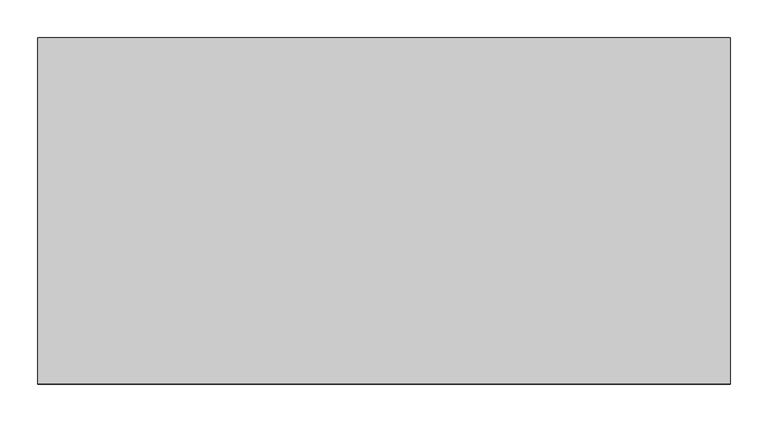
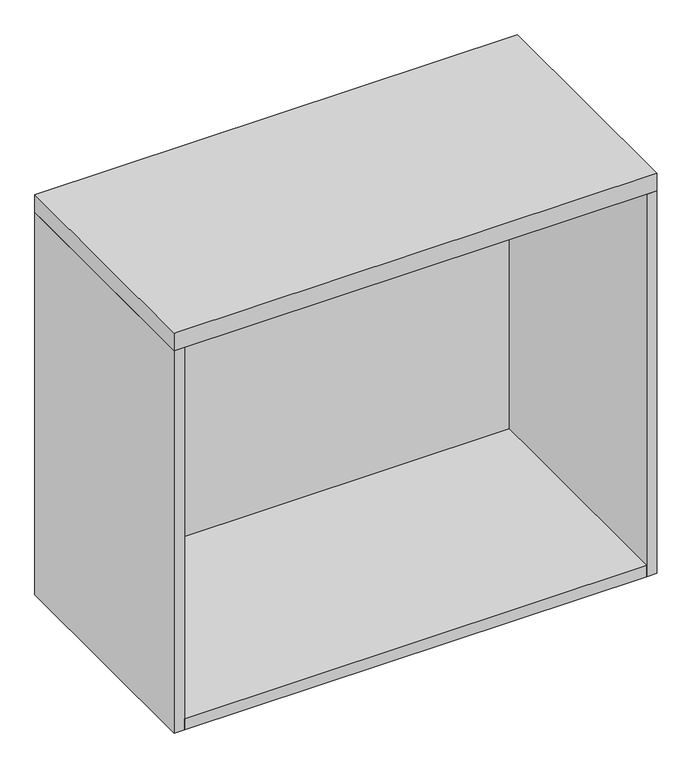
"""IFC4 building model written with IfcOpenShell, lengths in millimetres: furniture geometry, Steelcase - 900 Series - Storage - Overfile Cabinet - Flush Steel : Open - 36W x 31 1/2H."""

from ifc_helpers import new_model, si_unit, frame, origin, place, context, project, spatial, polyline, outline, extrude, source, transform, mapped, element, save


def furniture_2e4ff718(model_context):
    return source(origin(), model_context, "Body", "SweptSolid", [
        extrude(outline(polyline([(895.0960184, -6.3500002), (895.0960184, -457.2), (19.3039998, -457.2), (19.3039998, -6.3500002), (895.0960184, -6.3500002)])), frame((0.0, 0.0, 1246.378), z_axis=(0.0, 0.0, 1.0), x_axis=(1.0, 0.0, 0.0)), (0.0, 0.0, 1.0), 22.2249516),
        extrude(outline(polyline([(914.4, 0.0), (914.4, -457.2), (0.0, -457.2), (0.0, 0.0), (914.4, 0.0)])), frame((0.0, 0.0, 2011.5529516), z_axis=(0.0, 0.0, 1.0), x_axis=(1.0, 0.0, 0.0)), (0.0, 0.0, 1.0), 34.9250484),
        extrude(outline(polyline([(895.0960184, -6.3500002), (19.3039998, -6.3500002), (19.3039998, -457.2), (0.0, -457.2), (0.0, 0.0), (914.4, 0.0), (914.4, -457.2), (895.0960184, -457.2), (895.0960184, -6.3500002)])), frame((0.0, 0.0, 1246.378), z_axis=(0.0, 0.0, 1.0), x_axis=(1.0, 0.0, 0.0)), (0.0, 0.0, 1.0), 765.1749516),
    ])


if __name__ == "__main__":
    model = new_model("IFC4")
    model_context = context("Model", 3, world=origin())
    ifc_project = project(units=[si_unit("LENGTHUNIT", "METRE", prefix="MILLI")], contexts=[model_context])
    site = spatial("IfcSite", under=ifc_project)
    building = spatial("IfcBuilding", under=site)
    placement = place(None, origin())
    furniture_shape = furniture_2e4ff718(model_context)
    element("IfcFurniture", 1, ObjectType="Steelcase - 900 Series - Storage - Overfile Cabinet - Flush Steel : Open - 36W x 31 1/2H", at=placement, inside=building, context=model_context, shape_type="MappedRepresentation", body=[
        mapped(furniture_shape, transform((0.0, 0.0, 0.0), x_axis=(1.0, 0.0, 0.0), y_axis=(0.0, 1.0, 0.0), z_axis=(0.0, 0.0, 1.0))),
    ])
    save(model, "model.ifc")
